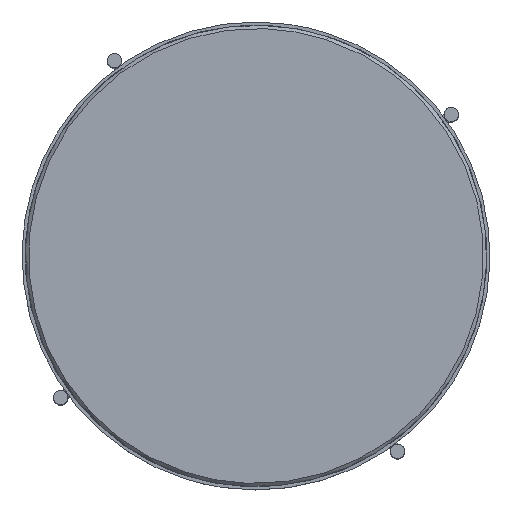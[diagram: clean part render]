
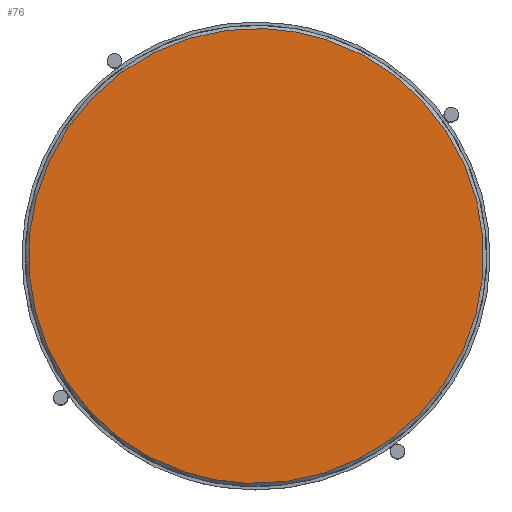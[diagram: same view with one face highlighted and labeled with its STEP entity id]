
A CAD part, top view. The second image highlights one B-rep face of the part: STEP entity #76.
In plain terms, the highlighted planar face has unit normal (0, 0, 1).
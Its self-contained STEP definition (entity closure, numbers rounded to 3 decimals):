
#12=B_SPLINE_CURVE_WITH_KNOTS('',3,(#1576,#1577,#1578,#1579,#1580,#1581,
#1582,#1583,#1584,#1585,#1586,#1587,#1588,#1589,#1590,#1591,#1592,#1593,
#1594,#1595,#1596,#1597,#1598,#1599,#1600,#1601,#1602,#1603,#1604,#1605,
#1606,#1607,#1608,#1609,#1610,#1611,#1612,#1613),.UNSPECIFIED.,.F.,.F.,
(4,1,1,1,1,1,1,1,1,1,1,1,1,1,1,1,1,1,1,1,1,1,1,1,1,1,1,1,1,1,1,1,1,1,1,
4),(0.,30.327,60.654,96.818,115.432,
134.045,152.936,171.828,190.719,209.61,
246.837,255.879,264.92,273.961,283.002,
298.165,313.329,343.655,358.819,373.982,
389.146,404.309,422.391,440.473,477.701,
496.592,515.483,534.374,553.266,571.879,
590.493,599.534,608.575,626.657,656.984,
687.311),.UNSPECIFIED.);
#14=B_SPLINE_CURVE_WITH_KNOTS('',3,(#1626,#1627,#1628,#1629,#1630,#1631,
#1632,#1633,#1634,#1635,#1636,#1637,#1638,#1639,#1640,#1641,#1642,#1643,
#1644,#1645,#1646,#1647,#1648,#1649,#1650,#1651,#1652,#1653,#1654,#1655,
#1656,#1657,#1658,#1659,#1660),.UNSPECIFIED.,.F.,.F.,(4,1,1,1,1,1,1,1,1,
1,1,1,1,1,1,1,1,1,1,1,1,1,1,1,1,1,1,1,1,1,1,1,4),(687.311,717.638,
747.964,766.047,784.129,821.356,840.247,
859.139,878.03,896.921,915.535,934.148,
943.189,952.231,970.313,1000.639,1030.966,
1061.293,1091.62,1109.702,1127.784,1165.012,
1183.903,1202.794,1221.685,1240.576,1277.804,
1295.886,1313.968,1329.132,1344.295,1359.458,
1374.622),.UNSPECIFIED.);
#76=ADVANCED_FACE('',(#120),#558,.T.);
#120=FACE_OUTER_BOUND('',#166,.T.);
#166=EDGE_LOOP('',(#288,#289));
#288=ORIENTED_EDGE('',*,*,#389,.F.);
#289=ORIENTED_EDGE('',*,*,#384,.F.);
#384=EDGE_CURVE('',#508,#512,#12,.T.);
#389=EDGE_CURVE('',#512,#508,#14,.T.);
#508=VERTEX_POINT('',#1557);
#512=VERTEX_POINT('',#1561);
#558=PLANE('',#594);
#594=AXIS2_PLACEMENT_3D('',#1398,#613,$);
#613=DIRECTION('',(0.,0.,1.));
#1398=CARTESIAN_POINT('',(49.893,-398.629,399.6));
#1557=CARTESIAN_POINT('',(-231.749,-367.873,399.6));
#1561=CARTESIAN_POINT('',(-367.957,-783.689,399.6));
#1576=CARTESIAN_POINT('',(-231.749,-367.873,399.6));
#1577=CARTESIAN_POINT('',(-222.142,-371.019,399.6));
#1578=CARTESIAN_POINT('',(-203.366,-378.647,399.6));
#1579=CARTESIAN_POINT('',(-175.364,-394.847,399.6));
#1580=CARTESIAN_POINT('',(-153.166,-412.666,399.6));
#1581=CARTESIAN_POINT('',(-136.136,-430.26,399.6));
#1582=CARTESIAN_POINT('',(-124.304,-444.77,399.6));
#1583=CARTESIAN_POINT('',(-113.705,-460.317,399.6));
#1584=CARTESIAN_POINT('',(-104.44,-476.801,399.6));
#1585=CARTESIAN_POINT('',(-96.632,-494.023,399.6));
#1586=CARTESIAN_POINT('',(-88.302,-517.622,399.6));
#1587=CARTESIAN_POINT('',(-83.734,-538.936,399.6));
#1588=CARTESIAN_POINT('',(-81.797,-557.275,399.6));
#1589=CARTESIAN_POINT('',(-81.218,-566.299,399.6));
#1590=CARTESIAN_POINT('',(-81.013,-575.34,399.6));
#1591=CARTESIAN_POINT('',(-81.219,-586.422,399.6));
#1592=CARTESIAN_POINT('',(-82.19,-599.517,399.6));
#1593=CARTESIAN_POINT('',(-85.078,-619.54,399.6));
#1594=CARTESIAN_POINT('',(-90.038,-639.19,399.6));
#1595=CARTESIAN_POINT('',(-96.998,-658.185,399.6));
#1596=CARTESIAN_POINT('',(-103.192,-672.036,399.6));
#1597=CARTESIAN_POINT('',(-110.33,-685.424,399.6));
#1598=CARTESIAN_POINT('',(-118.895,-699.112,399.6));
#1599=CARTESIAN_POINT('',(-129.054,-712.896,399.6));
#1600=CARTESIAN_POINT('',(-145.158,-731.34,399.6));
#1601=CARTESIAN_POINT('',(-163.71,-747.832,399.6));
#1602=CARTESIAN_POINT('',(-184.39,-761.928,399.6));
#1603=CARTESIAN_POINT('',(-200.873,-771.193,399.6));
#1604=CARTESIAN_POINT('',(-218.095,-779.001,399.6));
#1605=CARTESIAN_POINT('',(-235.838,-785.264,399.6));
#1606=CARTESIAN_POINT('',(-253.962,-789.962,399.6));
#1607=CARTESIAN_POINT('',(-269.18,-792.551,399.6));
#1608=CARTESIAN_POINT('',(-281.347,-793.837,399.6));
#1609=CARTESIAN_POINT('',(-293.38,-794.608,399.6));
#1610=CARTESIAN_POINT('',(-312.546,-794.647,399.6));
#1611=CARTESIAN_POINT('',(-338.699,-791.796,399.6));
#1612=CARTESIAN_POINT('',(-358.35,-786.835,399.6));
#1613=CARTESIAN_POINT('',(-367.957,-783.689,399.6));
#1626=CARTESIAN_POINT('',(-367.957,-783.689,399.6));
#1627=CARTESIAN_POINT('',(-377.563,-780.542,399.6));
#1628=CARTESIAN_POINT('',(-396.339,-772.915,399.6));
#1629=CARTESIAN_POINT('',(-419.112,-759.74,399.6));
#1630=CARTESIAN_POINT('',(-436.968,-746.579,399.6));
#1631=CARTESIAN_POINT('',(-455.413,-730.476,399.6));
#1632=CARTESIAN_POINT('',(-471.904,-711.923,399.6));
#1633=CARTESIAN_POINT('',(-486.,-691.244,399.6));
#1634=CARTESIAN_POINT('',(-495.265,-674.76,399.6));
#1635=CARTESIAN_POINT('',(-503.073,-657.539,399.6));
#1636=CARTESIAN_POINT('',(-509.336,-639.795,399.6));
#1637=CARTESIAN_POINT('',(-514.034,-621.671,399.6));
#1638=CARTESIAN_POINT('',(-516.623,-606.453,399.6));
#1639=CARTESIAN_POINT('',(-517.909,-594.286,399.6));
#1640=CARTESIAN_POINT('',(-518.68,-582.254,399.6));
#1641=CARTESIAN_POINT('',(-518.719,-563.087,399.6));
#1642=CARTESIAN_POINT('',(-515.868,-536.934,399.6));
#1643=CARTESIAN_POINT('',(-508.427,-507.458,399.6));
#1644=CARTESIAN_POINT('',(-496.987,-479.294,399.6));
#1645=CARTESIAN_POINT('',(-483.812,-456.522,399.6));
#1646=CARTESIAN_POINT('',(-470.651,-438.665,399.6));
#1647=CARTESIAN_POINT('',(-454.548,-420.22,399.6));
#1648=CARTESIAN_POINT('',(-435.995,-403.729,399.6));
#1649=CARTESIAN_POINT('',(-415.316,-389.633,399.6));
#1650=CARTESIAN_POINT('',(-398.832,-380.368,399.6));
#1651=CARTESIAN_POINT('',(-381.611,-372.56,399.6));
#1652=CARTESIAN_POINT('',(-358.011,-364.229,399.6));
#1653=CARTESIAN_POINT('',(-333.739,-359.028,399.6));
#1654=CARTESIAN_POINT('',(-309.342,-356.96,399.6));
#1655=CARTESIAN_POINT('',(-292.218,-356.924,399.6));
#1656=CARTESIAN_POINT('',(-276.116,-358.118,399.6));
#1657=CARTESIAN_POINT('',(-261.099,-360.284,399.6));
#1658=CARTESIAN_POINT('',(-246.268,-363.486,399.6));
#1659=CARTESIAN_POINT('',(-236.552,-366.299,399.6));
#1660=CARTESIAN_POINT('',(-231.749,-367.873,399.6));
